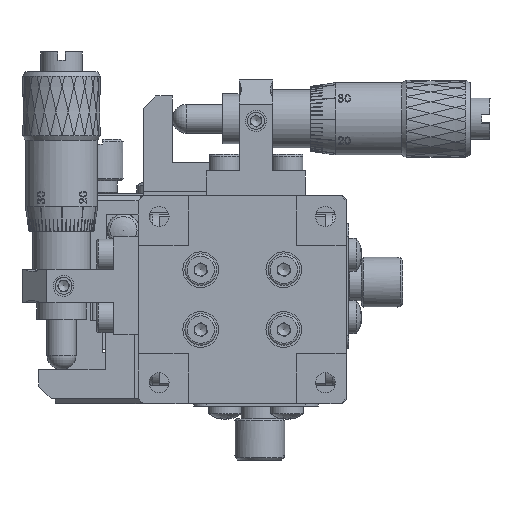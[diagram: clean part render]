
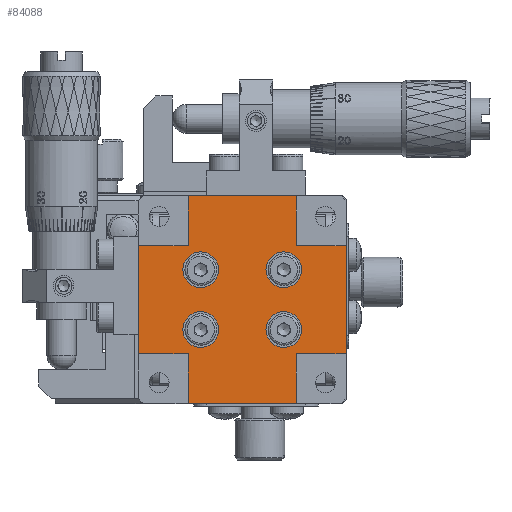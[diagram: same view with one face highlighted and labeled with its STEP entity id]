
A CAD part, front view. The second image highlights one B-rep face of the part: STEP entity #84088.
In plain terms, the highlighted planar face has unit normal (0, -1, 0).
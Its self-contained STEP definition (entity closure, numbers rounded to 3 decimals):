
#859 = EDGE_CURVE ( 'NONE', #67872, #78144, #15247, .T. ) ;
#1471 = VERTEX_POINT ( 'NONE', #66442 ) ;
#2719 = VERTEX_POINT ( 'NONE', #48993 ) ;
#5521 = DIRECTION ( 'NONE',  ( 0., 0., -1. ) ) ;
#7630 = FACE_BOUND ( 'NONE', #128111, .T. ) ;
#8129 = DIRECTION ( 'NONE',  ( -1., 0., 0. ) ) ;
#8313 = CARTESIAN_POINT ( 'NONE',  ( 22.958, 10.69, 66.294 ) ) ;
#9066 = ORIENTED_EDGE ( 'NONE', *, *, #70893, .F. ) ;
#11441 = CARTESIAN_POINT ( 'NONE',  ( 9.958, 10.69, 47.294 ) ) ;
#12636 = CARTESIAN_POINT ( 'NONE',  ( 22.958, 10.69, 41.294 ) ) ;
#14150 = CARTESIAN_POINT ( 'NONE',  ( 28.958, 10.69, 41.294 ) ) ;
#14722 = VECTOR ( 'NONE', #59392, 1000. ) ;
#15016 = VECTOR ( 'NONE', #5521, 1000. ) ;
#15247 = LINE ( 'NONE', #122788, #81981 ) ;
#17486 = VERTEX_POINT ( 'NONE', #12636 ) ;
#19082 = CIRCLE ( 'NONE', #97221, 2.15 ) ;
#19572 = CIRCLE ( 'NONE', #117701, 2.15 ) ;
#21134 = CARTESIAN_POINT ( 'NONE',  ( 3.958, 10.69, 60.294 ) ) ;
#22615 = ORIENTED_EDGE ( 'NONE', *, *, #129898, .T. ) ;
#23923 = LINE ( 'NONE', #14150, #25489 ) ;
#24297 = VECTOR ( 'NONE', #25049, 1000. ) ;
#24640 = LINE ( 'NONE', #132206, #102164 ) ;
#25049 = DIRECTION ( 'NONE',  ( 1., 0., 0. ) ) ;
#25482 = LINE ( 'NONE', #112108, #70875 ) ;
#25489 = VECTOR ( 'NONE', #111929, 1000. ) ;
#25639 = ORIENTED_EDGE ( 'NONE', *, *, #46391, .T. ) ;
#27093 = DIRECTION ( 'NONE',  ( -1., 0., 0. ) ) ;
#27231 = FACE_BOUND ( 'NONE', #36242, .T. ) ;
#28554 = AXIS2_PLACEMENT_3D ( 'NONE', #58741, #101312, #69891 ) ;
#28578 = VECTOR ( 'NONE', #8129, 1000. ) ;
#28625 = CIRCLE ( 'NONE', #113474, 2.15 ) ;
#29310 = FACE_OUTER_BOUND ( 'NONE', #52562, .T. ) ;
#30288 = ORIENTED_EDGE ( 'NONE', *, *, #81474, .F. ) ;
#32194 = CARTESIAN_POINT ( 'NONE',  ( 11.458, 10.69, 50.194 ) ) ;
#36242 = EDGE_LOOP ( 'NONE', ( #25639 ) ) ;
#37043 = LINE ( 'NONE', #68488, #14722 ) ;
#37160 = VECTOR ( 'NONE', #53542, 1000. ) ;
#37718 = CARTESIAN_POINT ( 'NONE',  ( 22.958, 10.69, 41.294 ) ) ;
#37790 = CARTESIAN_POINT ( 'NONE',  ( 9.308, 10.69, 50.194 ) ) ;
#38760 = DIRECTION ( 'NONE',  ( 0., 0., -1. ) ) ;
#39654 = EDGE_CURVE ( 'NONE', #1471, #1471, #19082, .T. ) ;
#39721 = EDGE_CURVE ( 'NONE', #2719, #75425, #37043, .T. ) ;
#41107 = CARTESIAN_POINT ( 'NONE',  ( 9.958, 10.69, 60.294 ) ) ;
#43274 = ORIENTED_EDGE ( 'NONE', *, *, #43509, .F. ) ;
#43509 = EDGE_CURVE ( 'NONE', #132593, #67872, #96787, .T. ) ;
#44702 = LINE ( 'NONE', #78163, #24297 ) ;
#45994 = CARTESIAN_POINT ( 'NONE',  ( 9.958, 10.69, 41.294 ) ) ;
#46098 = DIRECTION ( 'NONE',  ( -1., 0., 0. ) ) ;
#46391 = EDGE_CURVE ( 'NONE', #89482, #89482, #19572, .T. ) ;
#46982 = EDGE_CURVE ( 'NONE', #121562, #121562, #73267, .T. ) ;
#48993 = CARTESIAN_POINT ( 'NONE',  ( 28.958, 10.69, 47.294 ) ) ;
#49455 = CARTESIAN_POINT ( 'NONE',  ( 28.958, 10.69, 60.294 ) ) ;
#49946 = CARTESIAN_POINT ( 'NONE',  ( 3.958, 10.69, 41.294 ) ) ;
#49969 = VERTEX_POINT ( 'NONE', #111638 ) ;
#50303 = FACE_BOUND ( 'NONE', #64763, .T. ) ;
#52562 = EDGE_LOOP ( 'NONE', ( #22615, #30288, #9066, #132594, #101688, #98228, #83988, #74847, #93028, #86419, #117719, #43274 ) ) ;
#53159 = AXIS2_PLACEMENT_3D ( 'NONE', #84292, #63331, #107322 ) ;
#53542 = DIRECTION ( 'NONE',  ( 0., 0., 1. ) ) ;
#58224 = DIRECTION ( 'NONE',  ( -1., 0., 0. ) ) ;
#58741 = CARTESIAN_POINT ( 'NONE',  ( 16.458, 10.69, 53.794 ) ) ;
#59167 = EDGE_CURVE ( 'NONE', #92224, #60654, #24640, .T. ) ;
#59392 = DIRECTION ( 'NONE',  ( 0., 0., 1. ) ) ;
#59398 = PLANE ( 'NONE',  #28554 ) ;
#60332 = CARTESIAN_POINT ( 'NONE',  ( 21.458, 10.69, 57.394 ) ) ;
#60654 = VERTEX_POINT ( 'NONE', #107136 ) ;
#62919 = CARTESIAN_POINT ( 'NONE',  ( 22.958, 10.69, 66.294 ) ) ;
#63331 = DIRECTION ( 'NONE',  ( 0., 1., 0. ) ) ;
#63643 = DIRECTION ( 'NONE',  ( -1., 0., 0. ) ) ;
#63901 = ORIENTED_EDGE ( 'NONE', *, *, #46982, .T. ) ;
#64763 = EDGE_LOOP ( 'NONE', ( #63901 ) ) ;
#66442 = CARTESIAN_POINT ( 'NONE',  ( 19.308, 10.69, 57.394 ) ) ;
#67508 = ORIENTED_EDGE ( 'NONE', *, *, #93302, .T. ) ;
#67872 = VERTEX_POINT ( 'NONE', #11441 ) ;
#68488 = CARTESIAN_POINT ( 'NONE',  ( 28.958, 10.69, 41.294 ) ) ;
#69891 = DIRECTION ( 'NONE',  ( -1., 0., 0. ) ) ;
#70875 = VECTOR ( 'NONE', #110730, 1000. ) ;
#70893 = EDGE_CURVE ( 'NONE', #2719, #79331, #73134, .T. ) ;
#72560 = EDGE_CURVE ( 'NONE', #49969, #75425, #44702, .T. ) ;
#73134 = LINE ( 'NONE', #73834, #28578 ) ;
#73267 = CIRCLE ( 'NONE', #53159, 2.15 ) ;
#73834 = CARTESIAN_POINT ( 'NONE',  ( 28.958, 10.69, 47.294 ) ) ;
#74847 = ORIENTED_EDGE ( 'NONE', *, *, #83178, .F. ) ;
#75425 = VERTEX_POINT ( 'NONE', #49455 ) ;
#78144 = VERTEX_POINT ( 'NONE', #91459 ) ;
#78163 = CARTESIAN_POINT ( 'NONE',  ( 28.958, 10.69, 60.294 ) ) ;
#79331 = VERTEX_POINT ( 'NONE', #87486 ) ;
#81395 = DIRECTION ( 'NONE',  ( 1., 0., 0. ) ) ;
#81474 = EDGE_CURVE ( 'NONE', #79331, #17486, #113095, .T. ) ;
#81981 = VECTOR ( 'NONE', #27093, 1000. ) ;
#83178 = EDGE_CURVE ( 'NONE', #119508, #60654, #25482, .T. ) ;
#83249 = EDGE_CURVE ( 'NONE', #103698, #78144, #134434, .T. ) ;
#83782 = LINE ( 'NONE', #8313, #135325 ) ;
#83838 = VERTEX_POINT ( 'NONE', #126394 ) ;
#83988 = ORIENTED_EDGE ( 'NONE', *, *, #59167, .T. ) ;
#84088 = ADVANCED_FACE ( 'NONE', ( #7630, #122929, #50303, #27231, #29310 ), #59398, .T. ) ;
#84292 = CARTESIAN_POINT ( 'NONE',  ( 21.458, 10.69, 50.194 ) ) ;
#86419 = ORIENTED_EDGE ( 'NONE', *, *, #83249, .T. ) ;
#86676 = DIRECTION ( 'NONE',  ( 0., 1., 0. ) ) ;
#87486 = CARTESIAN_POINT ( 'NONE',  ( 22.958, 10.69, 47.294 ) ) ;
#89482 = VERTEX_POINT ( 'NONE', #37790 ) ;
#90384 = EDGE_CURVE ( 'NONE', #92224, #49969, #83782, .T. ) ;
#91459 = CARTESIAN_POINT ( 'NONE',  ( 3.958, 10.69, 47.294 ) ) ;
#91760 = DIRECTION ( 'NONE',  ( -1., 0., 0. ) ) ;
#91892 = LINE ( 'NONE', #134483, #138228 ) ;
#92224 = VERTEX_POINT ( 'NONE', #62919 ) ;
#93028 = ORIENTED_EDGE ( 'NONE', *, *, #132126, .F. ) ;
#93114 = DIRECTION ( 'NONE',  ( 0., 1., 0. ) ) ;
#93302 = EDGE_CURVE ( 'NONE', #83838, #83838, #28625, .T. ) ;
#96787 = LINE ( 'NONE', #118406, #37160 ) ;
#97221 = AXIS2_PLACEMENT_3D ( 'NONE', #60332, #93114, #91760 ) ;
#98228 = ORIENTED_EDGE ( 'NONE', *, *, #90384, .F. ) ;
#101312 = DIRECTION ( 'NONE',  ( 0., -1., 0. ) ) ;
#101688 = ORIENTED_EDGE ( 'NONE', *, *, #72560, .F. ) ;
#102164 = VECTOR ( 'NONE', #58224, 1000. ) ;
#103698 = VERTEX_POINT ( 'NONE', #21134 ) ;
#107136 = CARTESIAN_POINT ( 'NONE',  ( 9.958, 10.69, 66.294 ) ) ;
#107322 = DIRECTION ( 'NONE',  ( -1., 0., 0. ) ) ;
#108957 = DIRECTION ( 'NONE',  ( 0., 1., 0. ) ) ;
#110323 = CARTESIAN_POINT ( 'NONE',  ( 11.458, 10.69, 57.394 ) ) ;
#110730 = DIRECTION ( 'NONE',  ( 0., 0., 1. ) ) ;
#111117 = CARTESIAN_POINT ( 'NONE',  ( 19.308, 10.69, 50.194 ) ) ;
#111638 = CARTESIAN_POINT ( 'NONE',  ( 22.958, 10.69, 60.294 ) ) ;
#111929 = DIRECTION ( 'NONE',  ( 1., 0., 0. ) ) ;
#112108 = CARTESIAN_POINT ( 'NONE',  ( 9.958, 10.69, 66.294 ) ) ;
#113095 = LINE ( 'NONE', #37718, #15016 ) ;
#113474 = AXIS2_PLACEMENT_3D ( 'NONE', #110323, #108957, #46098 ) ;
#114511 = DIRECTION ( 'NONE',  ( 0., 0., -1. ) ) ;
#117701 = AXIS2_PLACEMENT_3D ( 'NONE', #32194, #86676, #63643 ) ;
#117719 = ORIENTED_EDGE ( 'NONE', *, *, #859, .F. ) ;
#118406 = CARTESIAN_POINT ( 'NONE',  ( 9.958, 10.69, 41.294 ) ) ;
#119508 = VERTEX_POINT ( 'NONE', #41107 ) ;
#121562 = VERTEX_POINT ( 'NONE', #111117 ) ;
#122788 = CARTESIAN_POINT ( 'NONE',  ( 3.958, 10.69, 47.294 ) ) ;
#122929 = FACE_BOUND ( 'NONE', #132900, .T. ) ;
#123713 = ORIENTED_EDGE ( 'NONE', *, *, #39654, .T. ) ;
#126394 = CARTESIAN_POINT ( 'NONE',  ( 9.308, 10.69, 57.394 ) ) ;
#128111 = EDGE_LOOP ( 'NONE', ( #67508 ) ) ;
#129898 = EDGE_CURVE ( 'NONE', #132593, #17486, #23923, .T. ) ;
#132126 = EDGE_CURVE ( 'NONE', #103698, #119508, #91892, .T. ) ;
#132206 = CARTESIAN_POINT ( 'NONE',  ( 28.958, 10.69, 66.294 ) ) ;
#132593 = VERTEX_POINT ( 'NONE', #45994 ) ;
#132594 = ORIENTED_EDGE ( 'NONE', *, *, #39721, .T. ) ;
#132900 = EDGE_LOOP ( 'NONE', ( #123713 ) ) ;
#134434 = LINE ( 'NONE', #49946, #135555 ) ;
#134483 = CARTESIAN_POINT ( 'NONE',  ( 3.958, 10.69, 60.294 ) ) ;
#135325 = VECTOR ( 'NONE', #114511, 1000. ) ;
#135555 = VECTOR ( 'NONE', #38760, 1000. ) ;
#138228 = VECTOR ( 'NONE', #81395, 1000. ) ;
